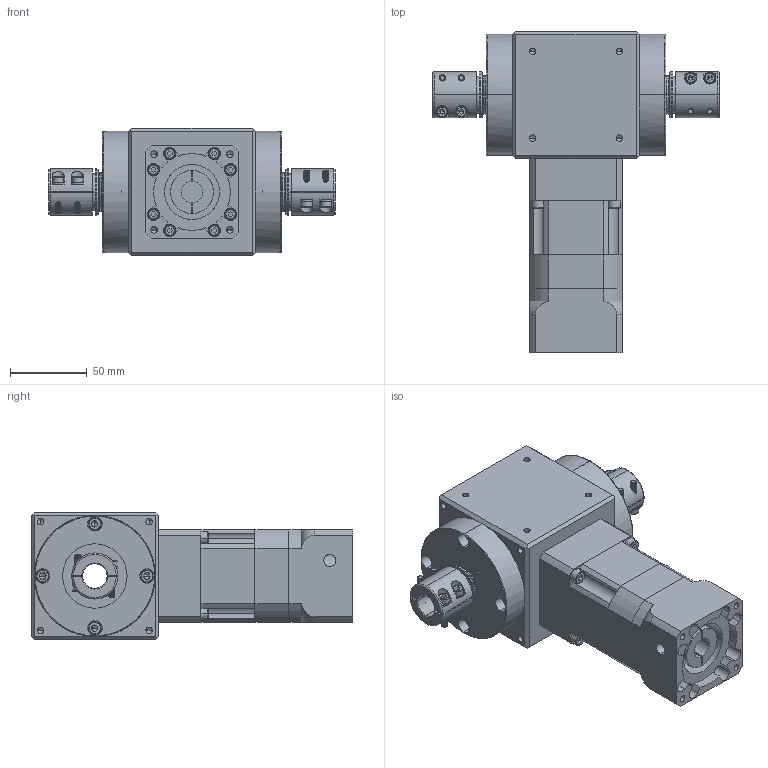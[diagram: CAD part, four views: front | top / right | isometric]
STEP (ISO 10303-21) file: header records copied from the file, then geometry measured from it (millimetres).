
FILE_DESCRIPTION (( 'STEP AP214' ), '1' );
FILE_NAME ('RAM060-L2-XX-D-14-50-70-M5_2019.STEP', '2019-04-09T02:32:16', ( 'Y' ), ( 'NCU' ), 'SwSTEP 2.0', 'SolidWorks 2016', '' );
FILE_SCHEMA (( 'AUTOMOTIVE_DESIGN' ));
Length unit declared in the file: millimetre
Products named in the file (1): RAM060-L2-XX-D-14-50-70-M5_2019
Bounding box: 187 x 209.7 x 83 mm (x, y, z)
Volume: 1128268.1 mm3; surface area: 157070.5 mm2
Topology: 5 solids, 13 shells, 1430 faces, 3834 edges, 2351 vertices
Faces by surface type: cylinder 605, plane 553, cone 138, bspline 92, torus 42
Entity records: 98392 total; most frequent: CARTESIAN_POINT 63660, ORIENTED_EDGE 7524, DIRECTION 6505, EDGE_CURVE 3762, AXIS2_PLACEMENT_3D 2420, VERTEX_POINT 2351, VECTOR 1665, LINE 1665
